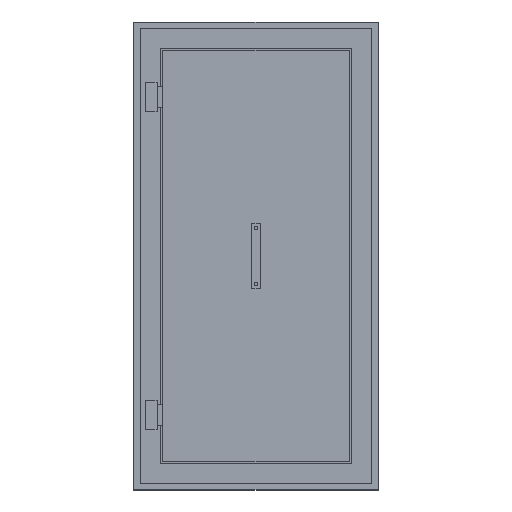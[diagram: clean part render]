
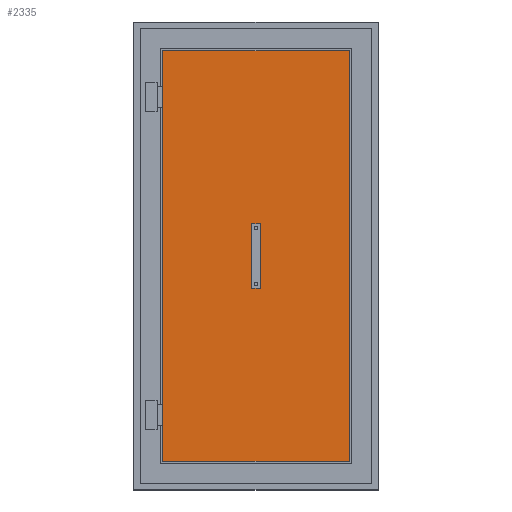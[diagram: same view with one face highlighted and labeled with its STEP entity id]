
A CAD part, top view. The second image highlights one B-rep face of the part: STEP entity #2335.
In plain terms, the highlighted planar face has unit normal (0, 0, 1).
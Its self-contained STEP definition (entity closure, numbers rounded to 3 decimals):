
#709=DIRECTION('',(0.,-1.,0.));
#710=VECTOR('',#709,1832.);
#711=CARTESIAN_POINT('',(-416.,916.,-41.));
#712=LINE('',#711,#710);
#713=DIRECTION('',(-1.,0.,0.));
#714=VECTOR('',#713,832.);
#715=CARTESIAN_POINT('',(416.,916.,-41.));
#716=LINE('',#715,#714);
#717=DIRECTION('',(0.,1.,0.));
#718=VECTOR('',#717,1832.);
#719=CARTESIAN_POINT('',(416.,-916.,-41.));
#720=LINE('',#719,#718);
#721=DIRECTION('',(1.,0.,0.));
#722=VECTOR('',#721,832.);
#723=CARTESIAN_POINT('',(-416.,-916.,-41.));
#724=LINE('',#723,#722);
#725=CARTESIAN_POINT('',(0.,0.,-41.));
#726=DIRECTION('',(0.,0.,1.));
#727=DIRECTION('',(1.,0.,0.));
#728=AXIS2_PLACEMENT_3D('',#725,#726,#727);
#730=CARTESIAN_POINT('',(0.,0.,-41.));
#731=DIRECTION('',(0.,0.,1.));
#732=DIRECTION('',(-1.,0.,0.));
#733=AXIS2_PLACEMENT_3D('',#730,#731,#732);
#1079=CARTESIAN_POINT('',(-416.,916.,-41.));
#1080=CARTESIAN_POINT('',(-416.,-916.,-41.));
#1081=VERTEX_POINT('',#1079);
#1082=VERTEX_POINT('',#1080);
#1083=CARTESIAN_POINT('',(416.,-916.,-41.));
#1084=VERTEX_POINT('',#1083);
#1085=CARTESIAN_POINT('',(416.,916.,-41.));
#1086=VERTEX_POINT('',#1085);
#1307=CARTESIAN_POINT('',(20.,0.,-41.));
#1308=CARTESIAN_POINT('',(-20.,0.,-41.));
#1309=VERTEX_POINT('',#1307);
#1310=VERTEX_POINT('',#1308);
#2316=CARTESIAN_POINT('',(0.,0.,-41.));
#2317=DIRECTION('',(0.,0.,1.));
#2318=DIRECTION('',(1.,0.,0.));
#2319=AXIS2_PLACEMENT_3D('',#2316,#2317,#2318);
#2320=PLANE('',#2319);
#2322=ORIENTED_EDGE('',*,*,#2321,.F.);
#2324=ORIENTED_EDGE('',*,*,#2323,.F.);
#2326=ORIENTED_EDGE('',*,*,#2325,.F.);
#2328=ORIENTED_EDGE('',*,*,#2327,.F.);
#2329=EDGE_LOOP('',(#2322,#2324,#2326,#2328));
#2330=FACE_OUTER_BOUND('',#2329,.F.);
#2331=ORIENTED_EDGE('',*,*,#1891,.T.);
#2332=ORIENTED_EDGE('',*,*,#2298,.T.);
#2333=EDGE_LOOP('',(#2331,#2332));
#2334=FACE_BOUND('',#2333,.F.);
#729=CIRCLE('',#728,20.);
#734=CIRCLE('',#733,20.);
#1891=EDGE_CURVE('',#1309,#1310,#729,.T.);
#2298=EDGE_CURVE('',#1310,#1309,#734,.T.);
#2321=EDGE_CURVE('',#1081,#1082,#712,.T.);
#2323=EDGE_CURVE('',#1086,#1081,#716,.T.);
#2325=EDGE_CURVE('',#1084,#1086,#720,.T.);
#2327=EDGE_CURVE('',#1082,#1084,#724,.T.);
#2335=ADVANCED_FACE('',(#2330,#2334),#2320,.T.);
